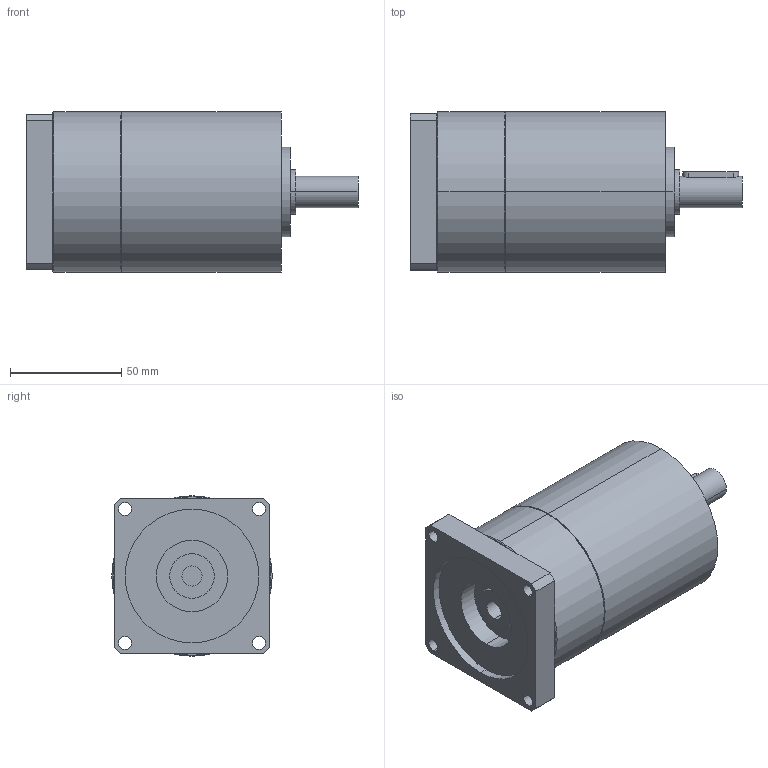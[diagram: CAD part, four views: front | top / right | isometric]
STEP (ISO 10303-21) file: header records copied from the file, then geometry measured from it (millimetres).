
FILE_DESCRIPTION(('CoCreate Modeling STEP Export'),'2;1');
FILE_NAME('GPT75_ig-9-12-16-20-25-28-35-40-50-70-100_14_B14T_9_P30.stp','2014-08-27T13:27:34',(''),(''),'CoCreate Modeling STEP processor for AP214 (Solid Model)','CoCreate Modeling 16.00C 25-Feb-2009 (C) Parametric Technology GmbH','');
FILE_SCHEMA(('AUTOMOTIVE_DESIGN { 1 0 10303 214 1 1 1 1 }'));
Length unit declared in the file: millimetre
Products named in the file (2): GPT75_ig-9-12-16-20-25-28-35-40-50-70-100_14_B14T_9_P30
Assembly tree (1 placements, depth 2):
  GPT75_ig-9-12-16-20-25-28-35-40-50-70-100_14_B14T_9_P30
    GPT75_ig-9-12-16-20-25-28-35-40-50-70-100_14_B14T_9_P30
Bounding box: 149 x 72 x 72 mm (x, y, z)
Volume: 466299.9 mm3; surface area: 42720.4 mm2
Topology: 1 solids, 1 shells, 76 faces, 182 edges, 121 vertices
Faces by surface type: cylinder 42, plane 30, cone 4
Entity records: 2265 total; most frequent: CARTESIAN_POINT 677, ORIENTED_EDGE 364, DIRECTION 268, EDGE_CURVE 182, VERTEX_POINT 121, AXIS2_PLACEMENT_3D 100, EDGE_LOOP 97, FACE_OUTER_BOUND 76
